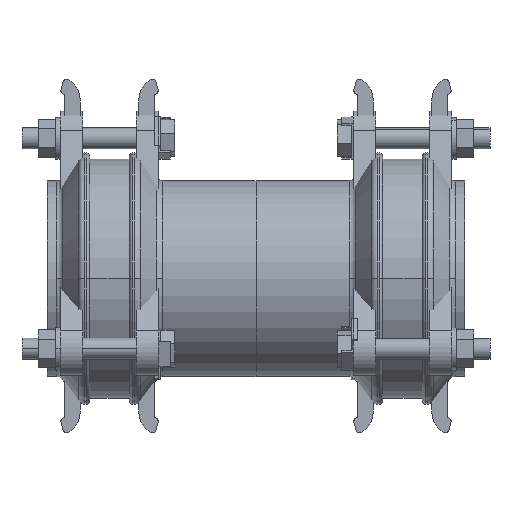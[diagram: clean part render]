
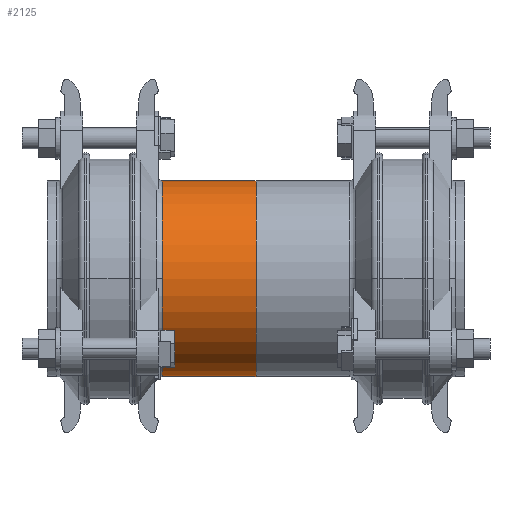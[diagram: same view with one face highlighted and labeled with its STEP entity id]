
A CAD part, front view. The second image highlights one B-rep face of the part: STEP entity #2125.
In plain terms, the highlighted cylindrical face has radius 56.5 mm (diameter 113 mm), a partial arc.
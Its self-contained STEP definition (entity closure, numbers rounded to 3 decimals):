
#2125=ADVANCED_FACE('',(#3946),#3947,.T.);
#3946=FACE_OUTER_BOUND('',#5956,.T.);
#3947=CYLINDRICAL_SURFACE('',#5957,56.5);
#5956=EDGE_LOOP('',(#9852,#9853,#9854,#9855,#9856));
#5957=AXIS2_PLACEMENT_3D('',#9857,#9858,#9859);
#9852=ORIENTED_EDGE('',*,*,#12119,.F.);
#9853=ORIENTED_EDGE('',*,*,#11047,.T.);
#9854=ORIENTED_EDGE('',*,*,#11607,.T.);
#9855=ORIENTED_EDGE('',*,*,#12121,.F.);
#9856=ORIENTED_EDGE('',*,*,#12373,.F.);
#9857=CARTESIAN_POINT('',(-9.527,0.,0.));
#9858=DIRECTION('',(1.0,0.,0.));
#9859=DIRECTION('',(0.,0.,1.0));
#11047=EDGE_CURVE('',#12966,#12967,#12968,.T.);
#11607=EDGE_CURVE('',#12967,#13884,#13886,.T.);
#12119=EDGE_CURVE('',#12966,#14609,#14610,.T.);
#12121=EDGE_CURVE('',#14611,#13884,#14613,.T.);
#12373=EDGE_CURVE('',#14609,#14611,#14912,.T.);
#12966=VERTEX_POINT('',#15615);
#12967=VERTEX_POINT('',#15616);
#12968=CIRCLE('',#15617,56.5);
#13884=VERTEX_POINT('',#16823);
#13886=CIRCLE('',#16825,56.5);
#14609=VERTEX_POINT('',#17803);
#14610=LINE('',#17804,#17805);
#14611=VERTEX_POINT('',#17806);
#14613=LINE('',#17808,#17809);
#14912=CIRCLE('',#18209,56.5);
#15615=CARTESIAN_POINT('',(-36.553,0.,56.5));
#15616=CARTESIAN_POINT('',(-36.553,-56.5,0.));
#15617=AXIS2_PLACEMENT_3D('',#18810,#18811,#18812);
#16823=CARTESIAN_POINT('',(-36.553,0.,-56.5));
#16825=AXIS2_PLACEMENT_3D('',#19517,#19518,#19519);
#17803=CARTESIAN_POINT('',(17.5,0.,56.5));
#17804=CARTESIAN_POINT('',(-9.527,0.,56.5));
#17805=VECTOR('',#20078,1.0);
#17806=CARTESIAN_POINT('',(17.5,0.,-56.5));
#17808=CARTESIAN_POINT('',(-9.527,0.,-56.5));
#17809=VECTOR('',#20082,1.0);
#18209=AXIS2_PLACEMENT_3D('',#20310,#20311,#20312);
#18810=CARTESIAN_POINT('',(-36.553,0.,0.0));
#18811=DIRECTION('',(1.0,0.,0.));
#18812=DIRECTION('',(0.,0.,1.0));
#19517=CARTESIAN_POINT('',(-36.553,0.,0.0));
#19518=DIRECTION('',(1.0,0.,0.));
#19519=DIRECTION('',(0.,0.,1.0));
#20078=DIRECTION('',(1.0,0.,0.));
#20082=DIRECTION('',(-1.0,0.,0.));
#20310=CARTESIAN_POINT('',(17.5,0.,0.));
#20311=DIRECTION('',(1.0,0.,0.));
#20312=DIRECTION('',(0.,0.,1.0));
